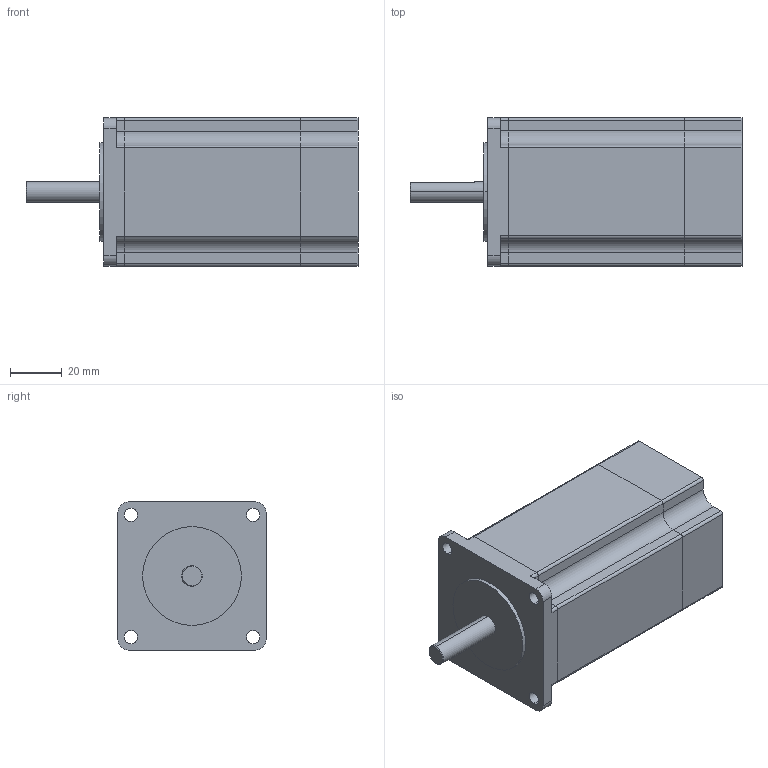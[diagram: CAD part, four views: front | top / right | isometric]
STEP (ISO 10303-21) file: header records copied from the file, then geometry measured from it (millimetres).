
FILE_DESCRIPTION (( 'STEP AP203' ), '1' );
FILE_NAME ('TM2302A50A-P1000.STEP', '2019-02-16T02:39:14', ( 'User' ), ( 'www.dadighost.com' ), 'SwSTEP 2.0', 'SolidWorks 2014', '' );
FILE_SCHEMA (( 'CONFIG_CONTROL_DESIGN' ));
Length unit declared in the file: millimetre
Products named in the file (1): TM2302A50A-P1000
Bounding box: 128 x 57.15 x 57.15 mm (x, y, z)
Volume: 283173.6 mm3; surface area: 40069.6 mm2
Topology: 3 solids, 3 shells, 105 faces, 289 edges, 192 vertices
Faces by surface type: cylinder 52, plane 50, cone 3
Entity records: 3467 total; most frequent: DIRECTION 608, CARTESIAN_POINT 593, ORIENTED_EDGE 578, EDGE_CURVE 289, AXIS2_PLACEMENT_3D 215, VERTEX_POINT 192, LINE 178, VECTOR 178
